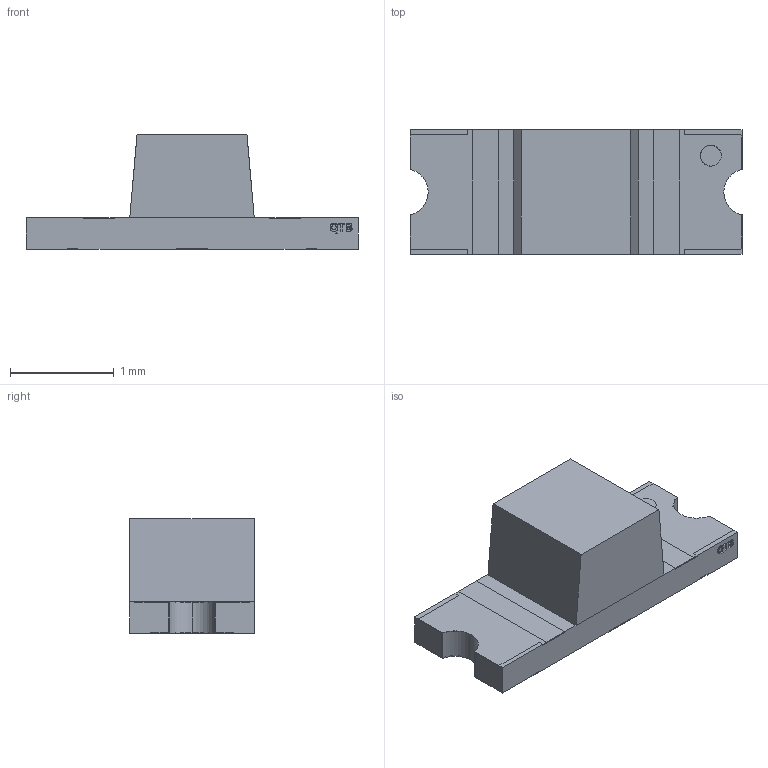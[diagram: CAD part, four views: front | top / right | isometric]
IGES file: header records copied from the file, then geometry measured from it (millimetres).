
Start section: Data from Parasolid IGES Translator 23.1.110, Copyright(c) 2006 Siemens PLM Software. All Rights Reserved.
Global section: file name: 5fab0f60a422af0e7fe97084.iges; native system: By Siemens PLM Incorporated; preprocessor: XPlus GENERIC/IGES 23.1.110; author: Noname; organization: Noname; date: 20201110.220832; units: metre
Bounding box: 3.2 x 1.2 x 1.1 mm (x, y, z)
Surface area: 24.1 mm2 (no closed solid volume)
Topology: 0 solids, 0 shells, 200 faces, 1078 edges, 1074 vertices
Faces by surface type: extrusion 181, revolution 19
